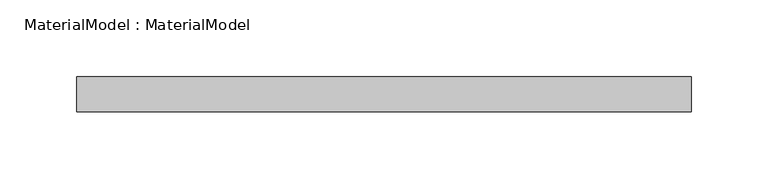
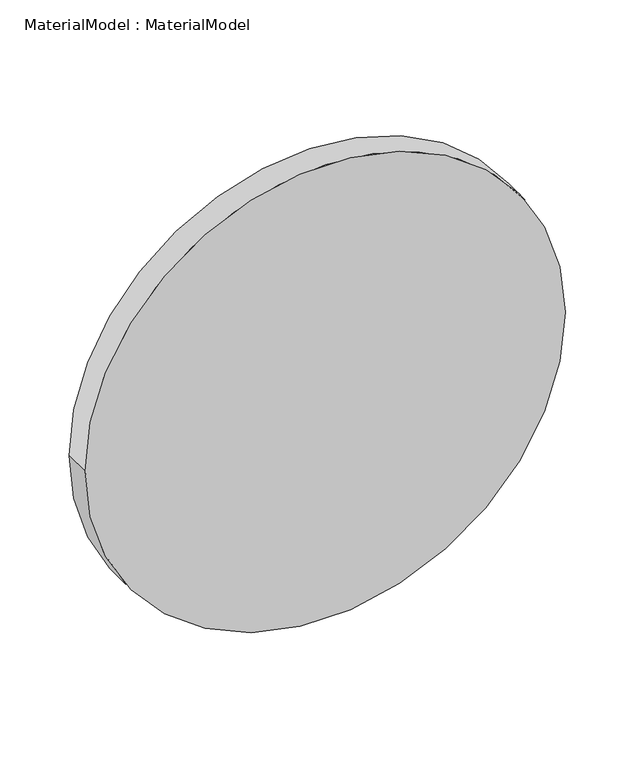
"""IFC4 building model written with IfcOpenShell, lengths in millimetres: proxy geometry, MaterialModel : MaterialModel."""

import ifcopenshell
import ifcopenshell.guid

model = None  # the IFC model being written
_history = None  # IfcOwnerHistory: only IFC2X3 demands one
_inside = {}  # id of a spatial element -> (the spatial element, [elements in it])
_under = {}  # id of a project, library or spatial element -> (it, [spatial elements below it])
_declared = {}  # id of a project -> (the project, [libraries it declares])
_typed = {}  # id of a type object -> (the type object, [elements of that type])
_made_of = {}  # id of a material, layer set ... -> (it, [elements and type objects made of it])


def new_model(schema):
    """Start an empty IFC model of exactly this schema.

    Asked for "IFC4X3", IfcOpenShell would pick the latest addendum, in which some entities
    have other attributes; the version numbers below select the first issue.
    IFC2X3 requires an IfcOwnerHistory on every rooted entity: one is made here for all.
    """
    global model, _history
    if schema == "IFC4X3":
        model = ifcopenshell.file(schema_version=(4, 3, 0, 0))
    else:
        model = ifcopenshell.file(schema=schema)
    _inside.clear()
    _under.clear()
    _declared.clear()
    _typed.clear()
    _made_of.clear()
    _history = None
    if model.schema == "IFC2X3":
        org = make("IfcOrganization", Name="unknown")
        user = make(
            "IfcPersonAndOrganization",
            ThePerson=make("IfcPerson", FamilyName="unknown"),
            TheOrganization=org,
        )
        app = make(
            "IfcApplication",
            ApplicationDeveloper=org,
            Version="unknown",
            ApplicationFullName="unknown",
            ApplicationIdentifier="unknown",
        )
        _history = make(
            "IfcOwnerHistory",
            OwningUser=user,
            OwningApplication=app,
            ChangeAction="ADDED",
            CreationDate=0,
        )
    return model


def make(cls, **values):
    """One entity of the class cls with the attributes given. An attribute that is None is left unset."""
    return model.create_entity(
        cls, **{name: value for name, value in values.items() if value is not None}
    )


def rooted(cls, **values):
    """An entity with a GlobalId (a new one), such as an element, a storey or a relation."""
    return make(cls, GlobalId=ifcopenshell.guid.new(), OwnerHistory=_history, **values)


def si_unit(unit_type, name, prefix=None):
    """IfcSIUnit, for example si_unit("LENGTHUNIT", "METRE", prefix="MILLI")."""
    return make("IfcSIUnit", UnitType=unit_type, Prefix=prefix, Name=name)


def assignment(units):
    """IfcUnitAssignment: the units of a project."""
    return None if units is None else make("IfcUnitAssignment", Units=units)


def point(xyz):
    """IfcCartesianPoint."""
    return None if xyz is None else make("IfcCartesianPoint", Coordinates=xyz)


def direction(xyz):
    """IfcDirection."""
    return None if xyz is None else make("IfcDirection", DirectionRatios=xyz)


def frame(location, z_axis=None, x_axis=None):
    """IfcAxis2Placement3D, a coordinate frame: its origin and axes. An axis left out is left unset."""
    return make(
        "IfcAxis2Placement3D",
        Location=point(location),
        Axis=direction(z_axis),
        RefDirection=direction(x_axis),
    )


def frame_2d(location, x_axis=None):
    """IfcAxis2Placement2D, a coordinate frame in the plane: its origin and x axis."""
    return make(
        "IfcAxis2Placement2D", Location=point(location), RefDirection=direction(x_axis)
    )


def origin():
    """The frame at (0, 0, 0) with its axes left unset."""
    return frame((0.0, 0.0, 0.0))


def place(relative_to, where):
    """IfcLocalPlacement: puts the frame where relative to a parent placement (None: the world)."""
    return make(
        "IfcLocalPlacement", PlacementRelTo=relative_to, RelativePlacement=where
    )


def context(
    kind, dimensions, precision=None, world=None, true_north=None, identifier=None
):
    """IfcGeometricRepresentationContext, for example the 3D "Model" context."""
    return make(
        "IfcGeometricRepresentationContext",
        ContextIdentifier=identifier,
        ContextType=kind,
        CoordinateSpaceDimension=dimensions,
        Precision=precision,
        WorldCoordinateSystem=world,
        TrueNorth=true_north,
    )


def project(units=None, contexts=None):
    """IfcProject with its units and contexts."""
    return rooted(
        "IfcProject",
        Name="project",
        RepresentationContexts=contexts,
        UnitsInContext=assignment(units),
    )


def spatial(cls, under=None, at=None, **own):
    """A site, building, storey or space (cls), placed at a placement, below another one or the project."""
    s = rooted(cls, ObjectPlacement=at, **own)
    if under is not None:
        _under.setdefault(under.id(), (under, []))[1].append(s)
    return s


def circle_curve(where, radius):
    """IfcCircle in the frame where."""
    return make("IfcCircle", Position=where, Radius=radius)


def trimmed(basis, trim1, trim2, sense, master):
    """IfcTrimmedCurve: the piece of a basis curve between two trims."""
    return make(
        "IfcTrimmedCurve",
        BasisCurve=basis,
        Trim1=trim1,
        Trim2=trim2,
        SenseAgreement=sense,
        MasterRepresentation=master,
    )


def segment(curve, same_sense, transition):
    """IfcCompositeCurveSegment."""
    return make(
        "IfcCompositeCurveSegment",
        Transition=transition,
        SameSense=same_sense,
        ParentCurve=curve,
    )


def composite_curve(segments, self_intersect=None):
    """IfcCompositeCurve: segments joined end to end."""
    return make("IfcCompositeCurve", Segments=segments, SelfIntersect=self_intersect)


def outline(outer, holes=None, kind="AREA"):
    """IfcArbitraryClosedProfileDef: a profile drawn as a closed curve; with holes, ...WithVoids."""
    if holes is None:
        return make("IfcArbitraryClosedProfileDef", ProfileType=kind, OuterCurve=outer)
    return make(
        "IfcArbitraryProfileDefWithVoids",
        ProfileType=kind,
        OuterCurve=outer,
        InnerCurves=holes,
    )


def extrude(swept, where, along, depth):
    """IfcExtrudedAreaSolid: the profile swept, set in the frame where, extruded along a direction by depth."""
    return make(
        "IfcExtrudedAreaSolid",
        SweptArea=swept,
        Position=where,
        ExtrudedDirection=direction(along),
        Depth=depth,
    )


def shape(context_of_items, identifier, shape_type, items):
    """IfcShapeRepresentation: the items that make up one representation, for example the "Body"."""
    return make(
        "IfcShapeRepresentation",
        ContextOfItems=context_of_items,
        RepresentationIdentifier=identifier,
        RepresentationType=shape_type,
        Items=items,
    )


def source(mapping_origin, context_of_items, identifier, shape_type, items):
    """IfcRepresentationMap: a shape defined once, which mapped items show again and again."""
    return make(
        "IfcRepresentationMap",
        MappingOrigin=mapping_origin,
        MappedRepresentation=shape(context_of_items, identifier, shape_type, items),
    )


def transform(
    local_origin,
    x_axis=None,
    y_axis=None,
    z_axis=None,
    scale=None,
    scale2=None,
    scale3=None,
    uniform=True,
):
    """IfcCartesianTransformationOperator3D, or its non-uniform kind. x_axis, y_axis, z_axis: its Axis1, 2, 3."""
    if uniform:
        return make(
            "IfcCartesianTransformationOperator3D",
            Axis1=direction(x_axis),
            Axis2=direction(y_axis),
            LocalOrigin=point(local_origin),
            Scale=scale,
            Axis3=direction(z_axis),
        )
    return make(
        "IfcCartesianTransformationOperator3DnonUniform",
        Axis1=direction(x_axis),
        Axis2=direction(y_axis),
        LocalOrigin=point(local_origin),
        Scale=scale,
        Axis3=direction(z_axis),
        Scale2=scale2,
        Scale3=scale3,
    )


def mapped(mapping_source, mapping_target):
    """IfcMappedItem: shows the shape of a source again, moved by a transform."""
    return make(
        "IfcMappedItem", MappingSource=mapping_source, MappingTarget=mapping_target
    )


def made_of(thing, what):
    """Note that an element or type object is made of a material, layer set ...; save() writes the relation."""
    if what is not None:
        _made_of.setdefault(what.id(), (what, []))[1].append(thing)
    return thing


def element(
    cls,
    number,
    at=None,
    inside=None,
    cuts=None,
    type_object=None,
    material=None,
    context=None,
    identifier="Body",
    shape_type=None,
    held_by="IfcProductDefinitionShape",
    body=None,
    shapes=None,
    **own,
):
    """One element of the class cls, such as IfcWall. Its Tag is "e" and its number.

    at: its placement. inside: the storey or other place that contains it. cuts: it is an
    opening in that element (IfcRelVoidsElement). A single representation is given by context,
    identifier, shape_type and body (its items); several are given by shapes. held_by: the class
    of the entity that holds the representations. save() writes the other relations.
    """
    e = rooted(cls, Tag="e%d" % number, ObjectPlacement=at, **own)
    if body is not None:
        shapes = [shape(context, identifier, shape_type, body)]
    if shapes is not None:
        e.Representation = make(held_by, Representations=shapes)
    if inside is not None:
        _inside.setdefault(inside.id(), (inside, []))[1].append(e)
    if cuts is not None:
        rooted(
            "IfcRelVoidsElement", RelatingBuildingElement=cuts, RelatedOpeningElement=e
        )
    if type_object is not None:
        _typed.setdefault(type_object.id(), (type_object, []))[1].append(e)
    return made_of(e, material)


def aggregate(whole, parts):
    """IfcRelAggregates: a whole, such as a stair, and the parts it consists of."""
    return rooted("IfcRelAggregates", RelatingObject=whole, RelatedObjects=parts)


def save(model, path):
    """Write the relations noted so far, then the file.

    IfcRelAggregates (storeys below a building ...), IfcRelContainedInSpatialStructure (elements
    in a storey), IfcRelDefinesByType, IfcRelAssociatesMaterial and IfcRelDeclares: one each for
    every whole, place, type object, material and project.
    """
    for whole, parts in _under.values():
        aggregate(whole, parts)
    for where, things in _inside.values():
        rooted(
            "IfcRelContainedInSpatialStructure",
            RelatedElements=things,
            RelatingStructure=where,
        )
    for kind, things in _typed.values():
        rooted("IfcRelDefinesByType", RelatedObjects=things, RelatingType=kind)
    for what, things in _made_of.values():
        rooted("IfcRelAssociatesMaterial", RelatedObjects=things, RelatingMaterial=what)
    for by, libraries in _declared.values():
        rooted("IfcRelDeclares", RelatingContext=by, RelatedDefinitions=libraries)
    model.write(path)


def materialmodel_materialmodel_8d9c29e1(model_context):
    return source(origin(), model_context, "Body", "SweptSolid", [
        extrude(outline(composite_curve([segment(trimmed(circle_curve(frame_2d((25.0, 0.0)), 200.0), [point((25.0, -200.0))], [point((25.0, 200.0))], False, "CARTESIAN"), True, "CONTINUOUS"), segment(trimmed(circle_curve(frame_2d((25.0, 0.0)), 200.0), [point((25.0, 200.0))], [point((25.0, -200.0))], False, "CARTESIAN"), True, "CONTINUOUS")], self_intersect=False)), frame((0.0, 2.1186748, 0.0), z_axis=(0.0, 1.0, 0.0), x_axis=(0.0, 0.0, 1.0)), (0.0, 0.0, 1.0), 22.8813252),
    ])


if __name__ == "__main__":
    model = new_model("IFC4")
    model_context = context("Model", 3, world=origin())
    ifc_project = project(units=[si_unit("LENGTHUNIT", "METRE", prefix="MILLI")], contexts=[model_context])
    site = spatial("IfcSite", under=ifc_project)
    building = spatial("IfcBuilding", under=site)
    placement = place(None, origin())
    materialmodel_materialmodel_shape = materialmodel_materialmodel_8d9c29e1(model_context)
    element("IfcBuildingElementProxy", 1, Name="MaterialModel : MaterialModel", ObjectType="MaterialModel : MaterialModel", at=placement, inside=building, context=model_context, shape_type="MappedRepresentation", body=[
        mapped(materialmodel_materialmodel_shape, transform((0.0, 0.0, 0.0), x_axis=(1.0, 0.0, 0.0), y_axis=(0.0, 1.0, 0.0), z_axis=(0.0, 0.0, 1.0))),
    ])
    save(model, "model.ifc")
